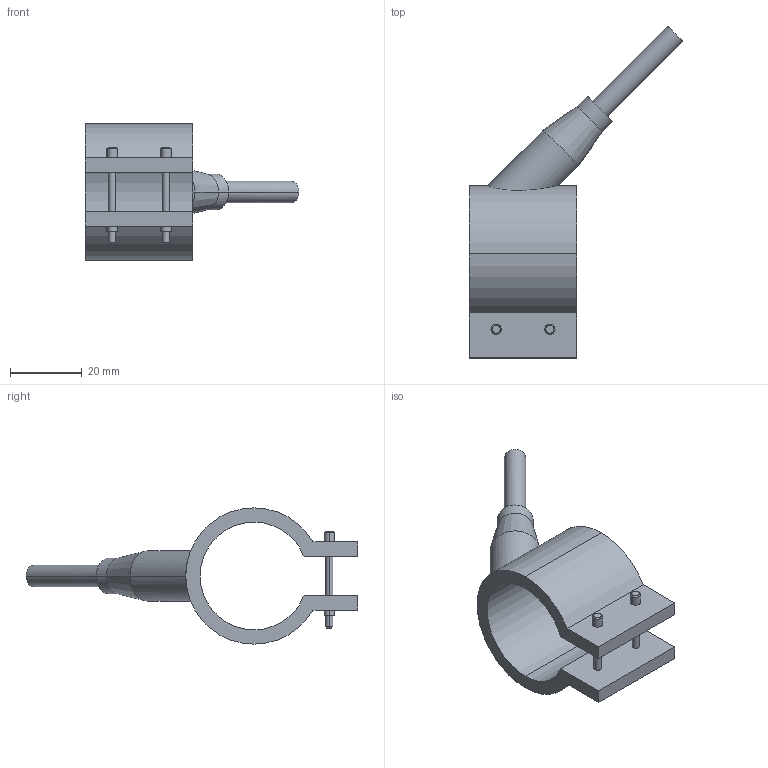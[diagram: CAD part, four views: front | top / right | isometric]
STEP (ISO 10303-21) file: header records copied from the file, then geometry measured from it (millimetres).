
FILE_DESCRIPTION(('CATIA V5 STEP Exchange'),'2;1');
FILE_NAME('C:\Users\Utente\Desktop\IO LAVORO\3D X SITO CF\X SITO\PLASTICA\RF1\29030030.stp','2021-03-27T09:07:22+00:00',('none'),('none'),'CATIA Version 5 Release 20 GA (IN-10)','CATIA V5 STEP AP203','none');
FILE_SCHEMA(('CONFIG_CONTROL_DESIGN'));
Length unit declared in the file: millimetre
Products named in the file (1): 29030030
Bounding box: 59.55 x 92.55 x 38 mm (x, y, z)
Volume: 19230.3 mm3; surface area: 10241.3 mm2
Topology: 1 solids, 1 shells, 54 faces, 122 edges, 78 vertices
Faces by surface type: cylinder 28, plane 16, cone 10
Entity records: 1737 total; most frequent: CARTESIAN_POINT 508, ORIENTED_EDGE 244, DIRECTION 214, EDGE_CURVE 122, AXIS2_PLACEMENT_3D 107, VERTEX_POINT 78, EDGE_LOOP 66, VECTOR 56
